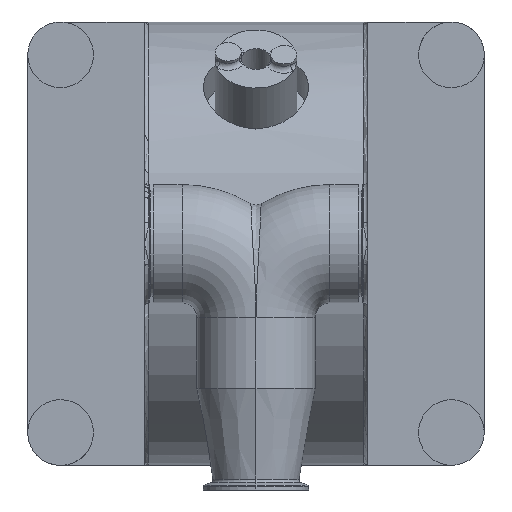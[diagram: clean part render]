
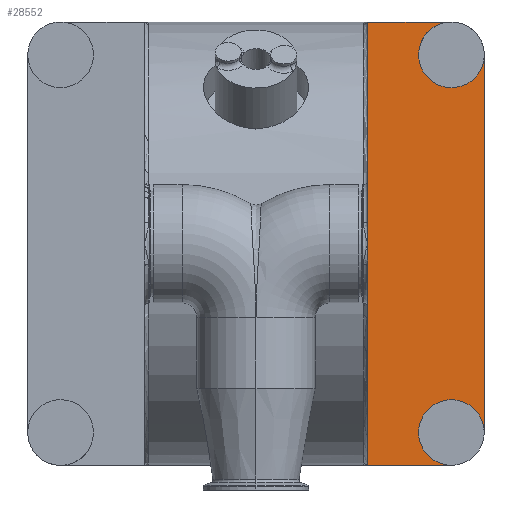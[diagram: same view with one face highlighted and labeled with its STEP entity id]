
A CAD part, front view. The second image highlights one B-rep face of the part: STEP entity #28552.
In plain terms, the highlighted planar face has unit normal (0, -1, 0).
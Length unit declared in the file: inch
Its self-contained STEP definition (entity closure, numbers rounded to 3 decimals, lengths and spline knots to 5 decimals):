
#8288=DIRECTION('',(1.,0.,0.));
#8289=VECTOR('',#8288,2.00787);
#8290=CARTESIAN_POINT('',(2.7666,-7.50755,5.46994));
#8291=LINE('',#8290,#8289);
#8301=CARTESIAN_POINT('',(4.77447,-7.50755,4.68253));
#8302=DIRECTION('',(0.,-1.,0.));
#8303=DIRECTION('',(0.975,0.,-0.223));
#8304=AXIS2_PLACEMENT_3D('',#8301,#8302,#8303);
#8306=DIRECTION('',(0.,0.,1.));
#8307=VECTOR('',#8306,9.05512);
#8308=CARTESIAN_POINT('',(5.56187,-7.50755,
-4.37258));
#8309=LINE('',#8308,#8307);
#8310=CARTESIAN_POINT('',(4.77447,-7.50755,
-4.37258));
#8311=DIRECTION('',(0.,-1.,0.));
#8312=DIRECTION('',(1.,0.,0.));
#8313=AXIS2_PLACEMENT_3D('',#8310,#8311,#8312);
#8315=CARTESIAN_POINT('',(4.77447,-7.50755,
-4.37258));
#8316=DIRECTION('',(0.,-1.,0.));
#8317=DIRECTION('',(-1.,0.,0.));
#8318=AXIS2_PLACEMENT_3D('',#8315,#8316,#8317);
#8320=DIRECTION('',(1.,0.,0.));
#8321=VECTOR('',#8320,2.00787);
#8322=CARTESIAN_POINT('',(2.7666,-7.50755,
-5.15998));
#8323=LINE('',#8322,#8321);
#8324=CARTESIAN_POINT('',(4.77447,-7.50755,4.68253));
#8325=DIRECTION('',(0.,-1.,0.));
#8326=DIRECTION('',(0.,0.,1.));
#8327=AXIS2_PLACEMENT_3D('',#8324,#8325,#8326);
#8329=CARTESIAN_POINT('',(4.77447,-7.50755,4.68253));
#8330=DIRECTION('',(0.,-1.,0.));
#8331=DIRECTION('',(-0.975,0.,0.223));
#8332=AXIS2_PLACEMENT_3D('',#8329,#8330,#8331);
#8503=DIRECTION('',(0.,0.,1.));
#8504=VECTOR('',#8503,4.77766);
#8505=CARTESIAN_POINT('',(2.7666,-7.50755,
0.69227));
#8506=LINE('',#8505,#8504);
#8555=CARTESIAN_POINT('',(2.7666,-7.50755,
0.15498));
#8584=DIRECTION('',(0.,0.,1.));
#8585=VECTOR('',#8584,0.5373);
#8586=CARTESIAN_POINT('',(2.7666,-7.50755,
0.15498));
#8587=LINE('',#8586,#8585);
#8588=DIRECTION('',(0.,0.,1.));
#8589=VECTOR('',#8588,0.5373);
#8590=CARTESIAN_POINT('',(2.7666,-7.50755,
-0.38232));
#8591=LINE('',#8590,#8589);
#8627=DIRECTION('',(0.,0.,1.));
#8628=VECTOR('',#8627,4.77766);
#8629=CARTESIAN_POINT('',(2.7666,-7.50755,
-5.15998));
#8630=LINE('',#8629,#8628);
#14973=VERTEX_POINT('',#8555);
#15044=CARTESIAN_POINT('',(2.7666,-7.50755,
0.69227));
#15045=VERTEX_POINT('',#15044);
#15054=CARTESIAN_POINT('',(2.7666,-7.50755,
5.46994));
#15055=VERTEX_POINT('',#15054);
#15064=CARTESIAN_POINT('',(2.7666,-7.50755,
-5.15998));
#15065=CARTESIAN_POINT('',(2.7666,-7.50755,
-0.38232));
#15066=VERTEX_POINT('',#15064);
#15067=VERTEX_POINT('',#15065);
#16721=CARTESIAN_POINT('',(5.56187,-7.50755,
-4.37258));
#16722=CARTESIAN_POINT('',(3.98707,-7.50755,
-4.37258));
#16723=VERTEX_POINT('',#16721);
#16724=VERTEX_POINT('',#16722);
#16725=CARTESIAN_POINT('',(4.77447,-7.50755,
-5.15998));
#16726=VERTEX_POINT('',#16725);
#16971=CARTESIAN_POINT('',(5.54212,-7.50755,
4.50726));
#16972=CARTESIAN_POINT('',(5.56187,-7.50755,
4.68253));
#16973=VERTEX_POINT('',#16971);
#16974=VERTEX_POINT('',#16972);
#16975=CARTESIAN_POINT('',(4.77447,-7.50755,
5.46994));
#16976=CARTESIAN_POINT('',(4.00682,-7.50755,
4.85781));
#16977=VERTEX_POINT('',#16975);
#16978=VERTEX_POINT('',#16976);
#28522=CARTESIAN_POINT('',(3.08156,-7.50755,
5.46994));
#28523=DIRECTION('',(0.,1.,0.));
#28524=DIRECTION('',(-1.,0.,0.));
#28525=AXIS2_PLACEMENT_3D('',#28522,#28523,#28524);
#28526=PLANE('',#28525);
#28528=ORIENTED_EDGE('',*,*,#28527,.T.);
#28530=ORIENTED_EDGE('',*,*,#28529,.F.);
#28532=ORIENTED_EDGE('',*,*,#28531,.T.);
#28534=ORIENTED_EDGE('',*,*,#28533,.T.);
#28536=ORIENTED_EDGE('',*,*,#28535,.F.);
#28538=ORIENTED_EDGE('',*,*,#28537,.T.);
#28540=ORIENTED_EDGE('',*,*,#28539,.T.);
#28542=ORIENTED_EDGE('',*,*,#28541,.T.);
#28544=ORIENTED_EDGE('',*,*,#28543,.T.);
#28545=ORIENTED_EDGE('',*,*,#28505,.T.);
#28547=ORIENTED_EDGE('',*,*,#28546,.T.);
#28549=ORIENTED_EDGE('',*,*,#28548,.T.);
#28550=EDGE_LOOP('',(#28528,#28530,#28532,#28534,#28536,#28538,#28540,#28542,
#28544,#28545,#28547,#28549));
#28551=FACE_OUTER_BOUND('',#28550,.F.);
#28552=ADVANCED_FACE('',(#28551),#28526,.F.);
#8305=CIRCLE('',#8304,0.7874);
#8314=CIRCLE('',#8313,0.7874);
#8319=CIRCLE('',#8318,0.7874);
#8328=CIRCLE('',#8327,0.7874);
#8333=CIRCLE('',#8332,0.7874);
#28505=EDGE_CURVE('',#15055,#16977,#8291,.T.);
#28527=EDGE_CURVE('',#16973,#16974,#8305,.T.);
#28529=EDGE_CURVE('',#16723,#16974,#8309,.T.);
#28531=EDGE_CURVE('',#16723,#16724,#8314,.T.);
#28533=EDGE_CURVE('',#16724,#16726,#8319,.T.);
#28535=EDGE_CURVE('',#15066,#16726,#8323,.T.);
#28537=EDGE_CURVE('',#15066,#15067,#8630,.T.);
#28539=EDGE_CURVE('',#15067,#14973,#8591,.T.);
#28541=EDGE_CURVE('',#14973,#15045,#8587,.T.);
#28543=EDGE_CURVE('',#15045,#15055,#8506,.T.);
#28546=EDGE_CURVE('',#16977,#16978,#8328,.T.);
#28548=EDGE_CURVE('',#16978,#16973,#8333,.T.);
